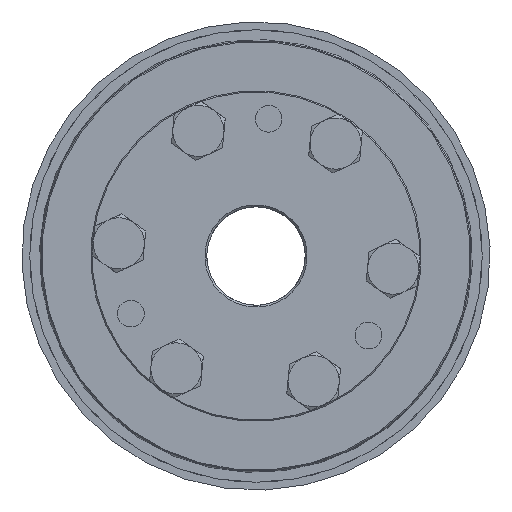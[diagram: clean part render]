
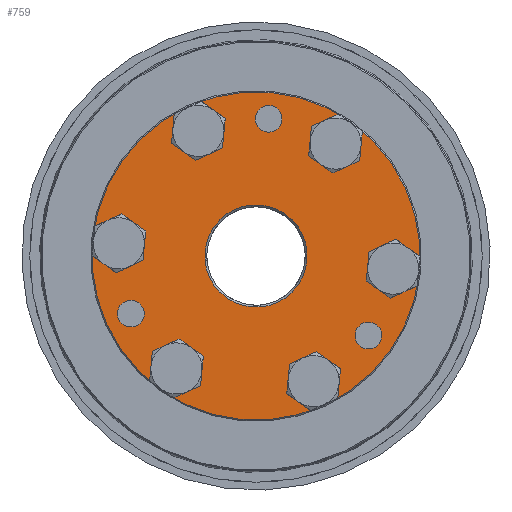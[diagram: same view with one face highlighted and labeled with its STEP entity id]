
A CAD part, left-side view. The second image highlights one B-rep face of the part: STEP entity #759.
In plain terms, the highlighted planar face has unit normal (-1, 0, 0).
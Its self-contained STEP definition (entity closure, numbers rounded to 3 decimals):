
#759 = ADVANCED_FACE( 'NONE', ( #1500, #1501, #1502, #1503, #1504, #1505, #1506, #1507, #1508, #1509, #1510 ), #1511, .F. );
#1500 = FACE_OUTER_BOUND( '', #2437, .T. );
#1501 = FACE_BOUND( '', #2438, .T. );
#1502 = FACE_BOUND( '', #2439, .T. );
#1503 = FACE_BOUND( '', #2440, .T. );
#1504 = FACE_BOUND( '', #2441, .T. );
#1505 = FACE_BOUND( '', #2442, .T. );
#1506 = FACE_BOUND( '', #2443, .T. );
#1507 = FACE_BOUND( '', #2444, .T. );
#1508 = FACE_BOUND( '', #2445, .T. );
#1509 = FACE_BOUND( '', #2446, .T. );
#1510 = FACE_BOUND( '', #2447, .T. );
#1511 = PLANE( '', #2448 );
#2437 = EDGE_LOOP( '', ( #3440 ) );
#2438 = EDGE_LOOP( '', ( #3441 ) );
#2439 = EDGE_LOOP( '', ( #3442 ) );
#2440 = EDGE_LOOP( '', ( #3443 ) );
#2441 = EDGE_LOOP( '', ( #3444 ) );
#2442 = EDGE_LOOP( '', ( #3445 ) );
#2443 = EDGE_LOOP( '', ( #3446 ) );
#2444 = EDGE_LOOP( '', ( #3447 ) );
#2445 = EDGE_LOOP( '', ( #3448 ) );
#2446 = EDGE_LOOP( '', ( #3449 ) );
#2447 = EDGE_LOOP( '', ( #3450 ) );
#2448 = AXIS2_PLACEMENT_3D( '', #3451, #3452, #3453 );
#3440 = ORIENTED_EDGE( '', *, *, #4691, .T. );
#3441 = ORIENTED_EDGE( '', *, *, #4692, .T. );
#3442 = ORIENTED_EDGE( '', *, *, #4693, .F. );
#3443 = ORIENTED_EDGE( '', *, *, #4694, .F. );
#3444 = ORIENTED_EDGE( '', *, *, #4498, .F. );
#3445 = ORIENTED_EDGE( '', *, *, #4695, .F. );
#3446 = ORIENTED_EDGE( '', *, *, #4696, .F. );
#3447 = ORIENTED_EDGE( '', *, *, #4697, .F. );
#3448 = ORIENTED_EDGE( '', *, *, #4698, .F. );
#3449 = ORIENTED_EDGE( '', *, *, #4699, .F. );
#3450 = ORIENTED_EDGE( '', *, *, #4700, .F. );
#3451 = CARTESIAN_POINT( '', ( 0., 12.5, 0. ) );
#3452 = DIRECTION( '', ( 1., 0., 0. ) );
#3453 = DIRECTION( '', ( 0., 1., 0. ) );
#4498 = EDGE_CURVE( 'NONE', #5019, #5019, #5020, .T. );
#4691 = EDGE_CURVE( 'NONE', #5341, #5341, #5342, .T. );
#4692 = EDGE_CURVE( 'NONE', #5343, #5343, #5344, .T. );
#4693 = EDGE_CURVE( 'NONE', #5345, #5345, #5346, .T. );
#4694 = EDGE_CURVE( 'NONE', #5347, #5347, #5348, .T. );
#4695 = EDGE_CURVE( 'NONE', #5349, #5349, #5350, .T. );
#4696 = EDGE_CURVE( 'NONE', #5351, #5351, #5352, .T. );
#4697 = EDGE_CURVE( 'NONE', #5353, #5353, #5354, .T. );
#4698 = EDGE_CURVE( 'NONE', #5355, #5355, #5356, .T. );
#4699 = EDGE_CURVE( 'NONE', #5357, #5357, #5358, .T. );
#4700 = EDGE_CURVE( 'NONE', #5359, #5359, #5360, .T. );
#5019 = VERTEX_POINT( '', #5782 );
#5020 = CIRCLE( '', #5783, 4.25 );
#5341 = VERTEX_POINT( '', #6281 );
#5342 = CIRCLE( '', #6282, 41.7 );
#5343 = VERTEX_POINT( '', #6283 );
#5344 = CIRCLE( '', #6284, 13. );
#5345 = VERTEX_POINT( '', #6285 );
#5346 = CIRCLE( '', #6286, 3.4 );
#5347 = VERTEX_POINT( '', #6287 );
#5348 = CIRCLE( '', #6288, 4.25 );
#5349 = VERTEX_POINT( '', #6289 );
#5350 = CIRCLE( '', #6290, 4.25 );
#5351 = VERTEX_POINT( '', #6291 );
#5352 = CIRCLE( '', #6292, 4.25 );
#5353 = VERTEX_POINT( '', #6293 );
#5354 = CIRCLE( '', #6294, 4.25 );
#5355 = VERTEX_POINT( '', #6295 );
#5356 = CIRCLE( '', #6296, 4.25 );
#5357 = VERTEX_POINT( '', #6297 );
#5358 = CIRCLE( '', #6298, 3.4 );
#5359 = VERTEX_POINT( '', #6299 );
#5360 = CIRCLE( '', #6300, 3.4 );
#5782 = CARTESIAN_POINT( '', ( 0., 30.311, 21.75 ) );
#5783 = AXIS2_PLACEMENT_3D( '', #7050, #7051, #7052 );
#6281 = CARTESIAN_POINT( '', ( 0., 0., -41.7 ) );
#6282 = AXIS2_PLACEMENT_3D( '', #7376, #7377, #7378 );
#6283 = CARTESIAN_POINT( '', ( 0., 0., -13. ) );
#6284 = AXIS2_PLACEMENT_3D( '', #7379, #7380, #7381 );
#6285 = CARTESIAN_POINT( '', ( 0., 17.5, -26.911 ) );
#6286 = AXIS2_PLACEMENT_3D( '', #7382, #7383, #7384 );
#6287 = CARTESIAN_POINT( '', ( 0., 0., 39.25 ) );
#6288 = AXIS2_PLACEMENT_3D( '', #7385, #7386, #7387 );
#6289 = CARTESIAN_POINT( '', ( 0., 30.311, -13.25 ) );
#6290 = AXIS2_PLACEMENT_3D( '', #7388, #7389, #7390 );
#6291 = CARTESIAN_POINT( '', ( 0., 0., -30.75 ) );
#6292 = AXIS2_PLACEMENT_3D( '', #7391, #7392, #7393 );
#6293 = CARTESIAN_POINT( '', ( 0., -30.311, -13.25 ) );
#6294 = AXIS2_PLACEMENT_3D( '', #7394, #7395, #7396 );
#6295 = CARTESIAN_POINT( '', ( 0., -30.311, 21.75 ) );
#6296 = AXIS2_PLACEMENT_3D( '', #7397, #7398, #7399 );
#6297 = CARTESIAN_POINT( '', ( 0., 17.5, 33.711 ) );
#6298 = AXIS2_PLACEMENT_3D( '', #7400, #7401, #7402 );
#6299 = CARTESIAN_POINT( '', ( 0., -35., 3.4 ) );
#6300 = AXIS2_PLACEMENT_3D( '', #7403, #7404, #7405 );
#7050 = CARTESIAN_POINT( '', ( 0., 30.311, 17.5 ) );
#7051 = DIRECTION( '', ( -1., 0., 0. ) );
#7052 = DIRECTION( '', ( 0., 0., 1. ) );
#7376 = CARTESIAN_POINT( '', ( 0., 0., 0. ) );
#7377 = DIRECTION( '', ( -1., 0., 0. ) );
#7378 = DIRECTION( '', ( 0., 0., -1. ) );
#7379 = CARTESIAN_POINT( '', ( 0., 0., 0. ) );
#7380 = DIRECTION( '', ( 1., 0., 0. ) );
#7381 = DIRECTION( '', ( 0., 0., -1. ) );
#7382 = CARTESIAN_POINT( '', ( 0., 17.5, -30.311 ) );
#7383 = DIRECTION( '', ( -1., 0., 0. ) );
#7384 = DIRECTION( '', ( 0., 0., 1. ) );
#7385 = CARTESIAN_POINT( '', ( 0., 0., 35. ) );
#7386 = DIRECTION( '', ( -1., 0., 0. ) );
#7387 = DIRECTION( '', ( 0., 0., 1. ) );
#7388 = CARTESIAN_POINT( '', ( 0., 30.311, -17.5 ) );
#7389 = DIRECTION( '', ( -1., 0., 0. ) );
#7390 = DIRECTION( '', ( 0., 0., 1. ) );
#7391 = CARTESIAN_POINT( '', ( 0., 0., -35. ) );
#7392 = DIRECTION( '', ( -1., 0., 0. ) );
#7393 = DIRECTION( '', ( 0., 0., 1. ) );
#7394 = CARTESIAN_POINT( '', ( 0., -30.311, -17.5 ) );
#7395 = DIRECTION( '', ( -1., 0., 0. ) );
#7396 = DIRECTION( '', ( 0., 0., 1. ) );
#7397 = CARTESIAN_POINT( '', ( 0., -30.311, 17.5 ) );
#7398 = DIRECTION( '', ( -1., 0., 0. ) );
#7399 = DIRECTION( '', ( 0., 0., 1. ) );
#7400 = CARTESIAN_POINT( '', ( 0., 17.5, 30.311 ) );
#7401 = DIRECTION( '', ( -1., 0., 0. ) );
#7402 = DIRECTION( '', ( 0., 0., 1. ) );
#7403 = CARTESIAN_POINT( '', ( 0., -35., 0. ) );
#7404 = DIRECTION( '', ( -1., 0., 0. ) );
#7405 = DIRECTION( '', ( 0., 0., 1. ) );
